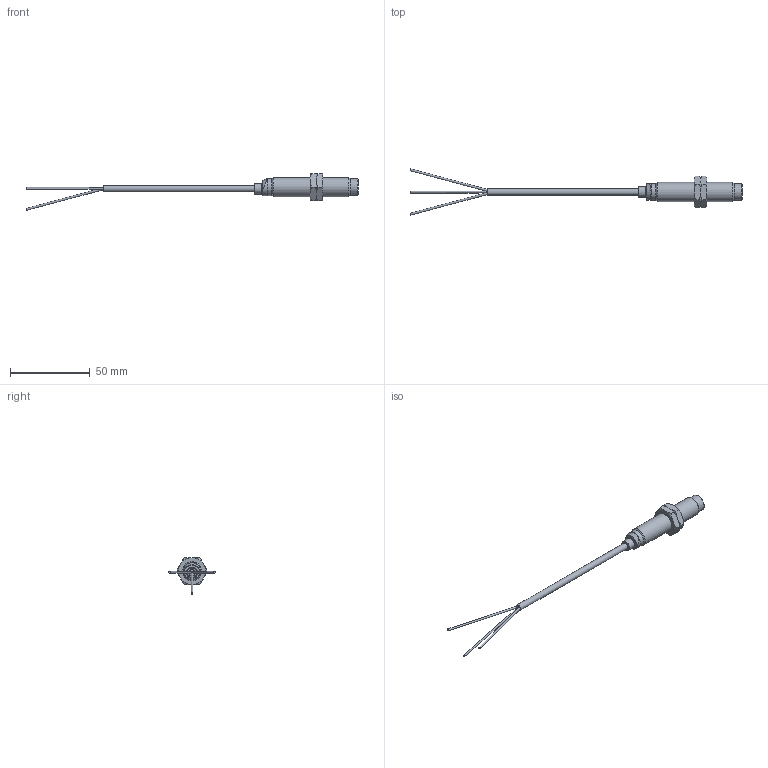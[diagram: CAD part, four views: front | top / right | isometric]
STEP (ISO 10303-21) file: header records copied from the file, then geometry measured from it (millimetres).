
FILE_DESCRIPTION( ( 'STEP AP203' ), '1' );
FILE_NAME( '//expscmdclustefs.cadenas.external/client_exchange/iodir/jobs/output/wkb81176874_no0/STEP/IFS253_2_03.stp', ' ', ( ' ' ), ( ' ' ), 'PSStep 15.0.47', 'PARTsolutions', ' ' );
FILE_SCHEMA( ( 'CONFIG_CONTROL_DESIGN' ) );
Length unit declared in the file: millimetre
Products named in the file (3): IFS253; _IFS253_part1; _SW17-L4-M12x1
Assembly tree (3 placements, depth 2):
  IFS253
    _IFS253_part1
    _SW17-L4-M12x1  x2
Bounding box: 208.46 x 29.09 x 23.04 mm (x, y, z)
Volume: 9215 mm3; surface area: 5544.8 mm2
Topology: 3 solids, 3 shells, 72 faces, 149 edges, 88 vertices
Faces by surface type: cone 31, plane 25, cylinder 11, torus 5
Full cylindrical faces by diameter (mm): 1.25 x3, 4 x1, 6.6 x1, 10.4 x1, 10.55 x1, 10.6 x1, 10.917 x2, 12 x1
Entity records: 1452 total; most frequent: CARTESIAN_POINT 427, DIRECTION 196, ORIENTED_EDGE 158, AXIS2_PLACEMENT_3D 95, EDGE_CURVE 79, EDGE_LOOP 73, FACE_OUTER_BOUND 62, VERTEX_POINT 56
